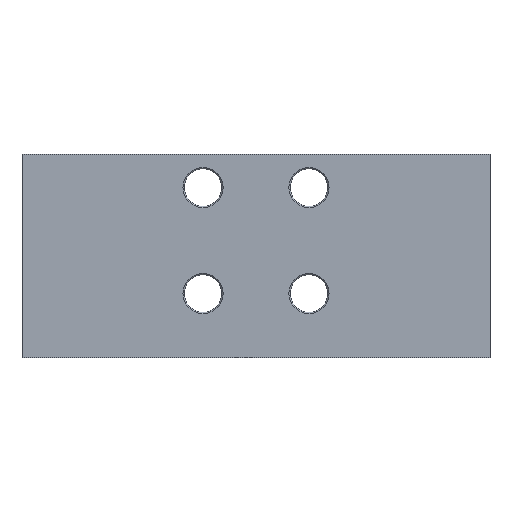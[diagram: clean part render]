
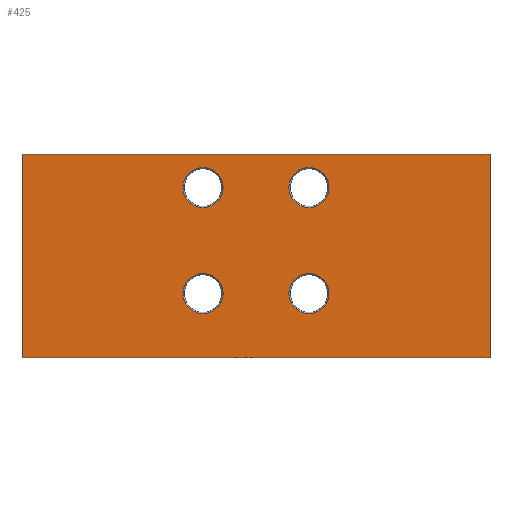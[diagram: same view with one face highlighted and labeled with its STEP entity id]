
A CAD part, front view. The second image highlights one B-rep face of the part: STEP entity #425.
In plain terms, the highlighted planar face has unit normal (0, -1, 0).
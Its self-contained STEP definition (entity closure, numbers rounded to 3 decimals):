
#2=DIRECTION('',(0.,0.,1.));
#3=VECTOR('',#2,46.);
#4=CARTESIAN_POINT('',(-53.,0.,-23.));
#5=LINE('',#4,#3);
#6=DIRECTION('',(1.,0.,0.));
#7=VECTOR('',#6,106.);
#8=CARTESIAN_POINT('',(-53.,0.,23.));
#9=LINE('',#8,#7);
#10=DIRECTION('',(0.,0.,-1.));
#11=VECTOR('',#10,46.);
#12=CARTESIAN_POINT('',(53.,0.,23.));
#13=LINE('',#12,#11);
#14=DIRECTION('',(-1.,0.,0.));
#15=VECTOR('',#14,106.);
#16=CARTESIAN_POINT('',(53.,0.,-23.));
#17=LINE('',#16,#15);
#18=CARTESIAN_POINT('',(-12.,0.,-8.5));
#19=DIRECTION('',(0.,1.,0.));
#20=DIRECTION('',(-1.,0.,0.));
#21=AXIS2_PLACEMENT_3D('',#18,#19,#20);
#23=CARTESIAN_POINT('',(-12.,0.,-8.5));
#24=DIRECTION('',(0.,1.,0.));
#25=DIRECTION('',(1.,0.,0.));
#26=AXIS2_PLACEMENT_3D('',#23,#24,#25);
#28=CARTESIAN_POINT('',(12.,0.,-8.5));
#29=DIRECTION('',(0.,1.,0.));
#30=DIRECTION('',(-1.,0.,0.));
#31=AXIS2_PLACEMENT_3D('',#28,#29,#30);
#33=CARTESIAN_POINT('',(12.,0.,-8.5));
#34=DIRECTION('',(0.,1.,0.));
#35=DIRECTION('',(1.,0.,0.));
#36=AXIS2_PLACEMENT_3D('',#33,#34,#35);
#38=CARTESIAN_POINT('',(12.,0.,15.5));
#39=DIRECTION('',(0.,1.,0.));
#40=DIRECTION('',(-1.,0.,0.));
#41=AXIS2_PLACEMENT_3D('',#38,#39,#40);
#43=CARTESIAN_POINT('',(12.,0.,15.5));
#44=DIRECTION('',(0.,1.,0.));
#45=DIRECTION('',(1.,0.,0.));
#46=AXIS2_PLACEMENT_3D('',#43,#44,#45);
#48=CARTESIAN_POINT('',(-12.,0.,15.5));
#49=DIRECTION('',(0.,1.,0.));
#50=DIRECTION('',(-1.,0.,0.));
#51=AXIS2_PLACEMENT_3D('',#48,#49,#50);
#53=CARTESIAN_POINT('',(-12.,0.,15.5));
#54=DIRECTION('',(0.,1.,0.));
#55=DIRECTION('',(1.,0.,0.));
#56=AXIS2_PLACEMENT_3D('',#53,#54,#55);
#306=CARTESIAN_POINT('',(-53.,0.,-23.));
#307=CARTESIAN_POINT('',(-53.,0.,23.));
#308=VERTEX_POINT('',#306);
#309=VERTEX_POINT('',#307);
#310=CARTESIAN_POINT('',(53.,0.,23.));
#311=VERTEX_POINT('',#310);
#312=CARTESIAN_POINT('',(53.,0.,-23.));
#313=VERTEX_POINT('',#312);
#354=CARTESIAN_POINT('',(-16.55,0.,-8.5));
#355=CARTESIAN_POINT('',(-7.45,0.,-8.5));
#356=VERTEX_POINT('',#354);
#357=VERTEX_POINT('',#355);
#362=CARTESIAN_POINT('',(7.45,0.,-8.5));
#363=CARTESIAN_POINT('',(16.55,0.,-8.5));
#364=VERTEX_POINT('',#362);
#365=VERTEX_POINT('',#363);
#370=CARTESIAN_POINT('',(7.45,0.,15.5));
#371=CARTESIAN_POINT('',(16.55,0.,15.5));
#372=VERTEX_POINT('',#370);
#373=VERTEX_POINT('',#371);
#378=CARTESIAN_POINT('',(-16.55,0.,15.5));
#379=CARTESIAN_POINT('',(-7.45,0.,15.5));
#380=VERTEX_POINT('',#378);
#381=VERTEX_POINT('',#379);
#386=CARTESIAN_POINT('',(0.,0.,0.));
#387=DIRECTION('',(0.,1.,0.));
#388=DIRECTION('',(1.,0.,0.));
#389=AXIS2_PLACEMENT_3D('',#386,#387,#388);
#390=PLANE('',#389);
#392=ORIENTED_EDGE('',*,*,#391,.T.);
#394=ORIENTED_EDGE('',*,*,#393,.T.);
#396=ORIENTED_EDGE('',*,*,#395,.T.);
#398=ORIENTED_EDGE('',*,*,#397,.T.);
#399=EDGE_LOOP('',(#392,#394,#396,#398));
#400=FACE_OUTER_BOUND('',#399,.F.);
#402=ORIENTED_EDGE('',*,*,#401,.F.);
#404=ORIENTED_EDGE('',*,*,#403,.F.);
#405=EDGE_LOOP('',(#402,#404));
#406=FACE_BOUND('',#405,.F.);
#408=ORIENTED_EDGE('',*,*,#407,.F.);
#410=ORIENTED_EDGE('',*,*,#409,.F.);
#411=EDGE_LOOP('',(#408,#410));
#412=FACE_BOUND('',#411,.F.);
#414=ORIENTED_EDGE('',*,*,#413,.F.);
#416=ORIENTED_EDGE('',*,*,#415,.F.);
#417=EDGE_LOOP('',(#414,#416));
#418=FACE_BOUND('',#417,.F.);
#420=ORIENTED_EDGE('',*,*,#419,.F.);
#422=ORIENTED_EDGE('',*,*,#421,.F.);
#423=EDGE_LOOP('',(#420,#422));
#424=FACE_BOUND('',#423,.F.);
#425=ADVANCED_FACE('',(#400,#406,#412,#418,#424),#390,.F.);
#22=CIRCLE('',#21,4.55);
#27=CIRCLE('',#26,4.55);
#32=CIRCLE('',#31,4.55);
#37=CIRCLE('',#36,4.55);
#42=CIRCLE('',#41,4.55);
#47=CIRCLE('',#46,4.55);
#52=CIRCLE('',#51,4.55);
#57=CIRCLE('',#56,4.55);
#391=EDGE_CURVE('',#308,#309,#5,.T.);
#393=EDGE_CURVE('',#309,#311,#9,.T.);
#395=EDGE_CURVE('',#311,#313,#13,.T.);
#397=EDGE_CURVE('',#313,#308,#17,.T.);
#401=EDGE_CURVE('',#356,#357,#22,.T.);
#403=EDGE_CURVE('',#357,#356,#27,.T.);
#407=EDGE_CURVE('',#364,#365,#32,.T.);
#409=EDGE_CURVE('',#365,#364,#37,.T.);
#413=EDGE_CURVE('',#372,#373,#42,.T.);
#415=EDGE_CURVE('',#373,#372,#47,.T.);
#419=EDGE_CURVE('',#380,#381,#52,.T.);
#421=EDGE_CURVE('',#381,#380,#57,.T.);
